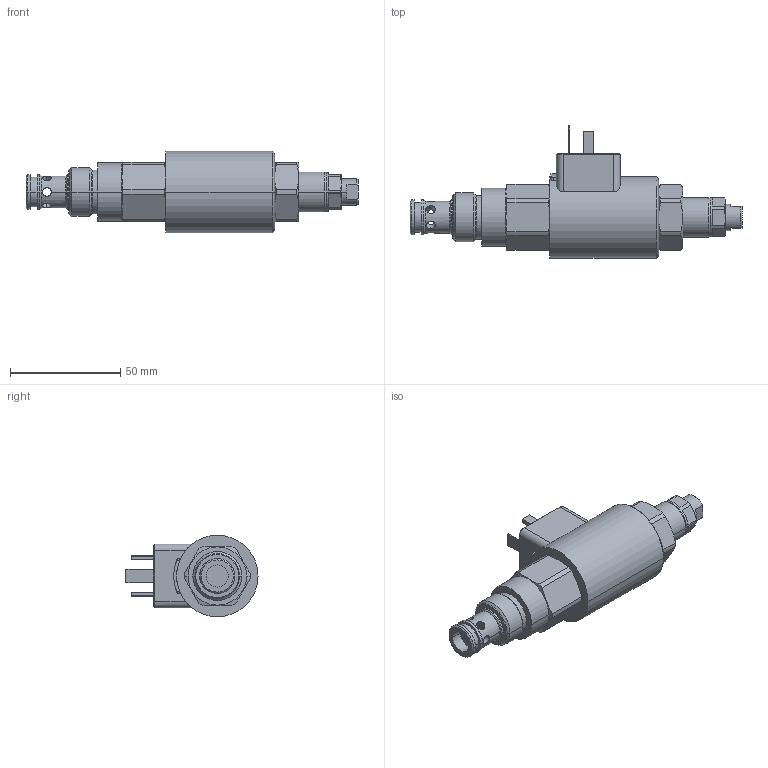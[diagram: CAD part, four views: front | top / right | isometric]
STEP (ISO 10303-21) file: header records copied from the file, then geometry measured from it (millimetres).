
FILE_DESCRIPTION((''),'2;1');
FILE_NAME('SR4E2_B2HX_E1TP_V001','2014-08-22T',('j.koudelka'),(''),'PRO/ENGINEER BY PARAMETRIC TECHNOLOGY CORPORATION, 2014090','PRO/ENGINEER BY PARAMETRIC TECHNOLOGY CORPORATION, 2014090','');
FILE_SCHEMA(('AUTOMOTIVE_DESIGN { 1 0 10303 214 1 1 1 1 }'));
Length unit declared in the file: millimetre
Products named in the file (1): SR4E2_B2HX_E1TP_V001
Bounding box: 150.8 x 60 x 37 mm (x, y, z)
Volume: 101842.8 mm3; surface area: 18293.4 mm2
Topology: 1 solids, 4 shells, 182 faces, 470 edges, 309 vertices
Faces by surface type: plane 75, cylinder 65, cone 40, torus 2
Entity records: 7652 total; most frequent: CARTESIAN_POINT 2549, DIRECTION 916, ORIENTED_EDGE 898, EDGE_CURVE 455, AXIS2_PLACEMENT_3D 343, VERTEX_POINT 283, VECTOR 230, LINE 230
